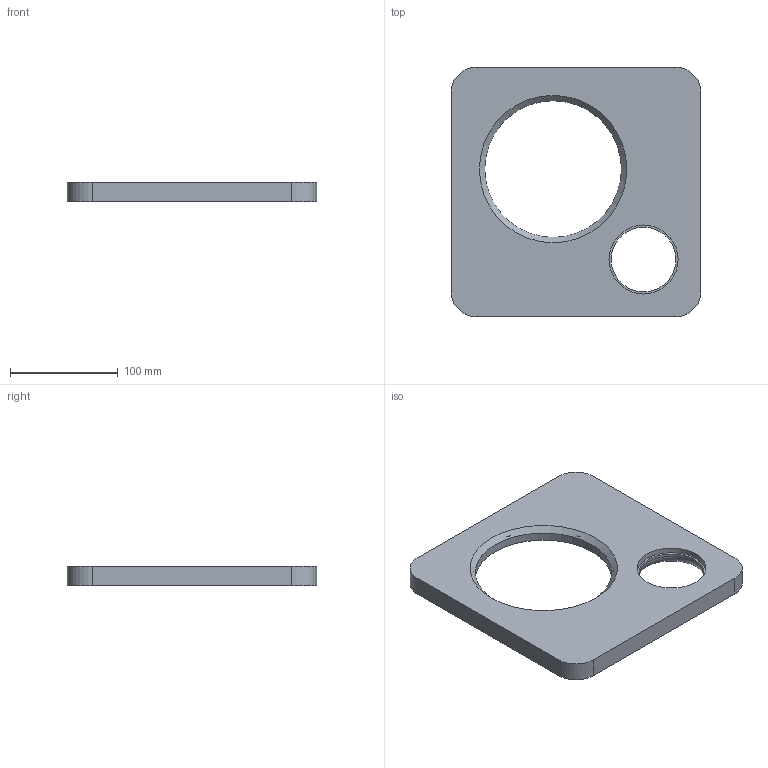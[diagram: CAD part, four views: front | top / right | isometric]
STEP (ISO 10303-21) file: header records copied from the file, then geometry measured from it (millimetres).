
FILE_DESCRIPTION(/* description */ ('STEP AP242 Edition 2','CAx-IF Rec.Pracs.---Representation and Presentation of Product Manufacturing Information (PMI)---4.0---2014-10-13','CAx-IF Rec.Pracs.---3D Tessellated Geometry---0.4---2014-09-14','2;1','CAx-IF Rec.Pracs.---User Defined Attributes---1.5---2016-08-15'),/* implementation_level */ '2;1');
FILE_NAME(/* name */ '693e1f1e3100820afeb07580',/* time_stamp */ '2025-12-14T02:21:19Z',/* author */ (''),/* organization */ (''),/* preprocessor_version */ 'ST-DEVELOPER v20',/* originating_system */ 'ONSHAPE BY PTC INC, 1.208',/* authorisation */ ' ');
FILE_SCHEMA (('AP242_MANAGED_MODEL_BASED_3D_ENGINEERING_MIM_LF { 1 0 10303 442 3 1 4 }'));
Length unit declared in the file: metre
Products named in the file (1): Speaker Base 6inch
Bounding box: 231 x 231 x 18 mm (x, y, z)
Volume: 633399.4 mm3; surface area: 101802.8 mm2
Topology: 1 solids, 1 shells, 39 faces, 72 edges, 47 vertices
Faces by surface type: cylinder 18, plane 18, torus 1, cone 1, bspline 1
Full cylindrical faces by diameter (mm): 5.7 x6, 6.5 x4, 60 x1, 64 x1, 126.5 x1, 151.7 x1
Entity records: 1342 total; most frequent: CARTESIAN_POINT 567, DIRECTION 168, ORIENTED_EDGE 110, AXIS2_PLACEMENT_3D 76, EDGE_LOOP 72, FACE_BOUND 72, EDGE_CURVE 55, VERTEX_POINT 47
